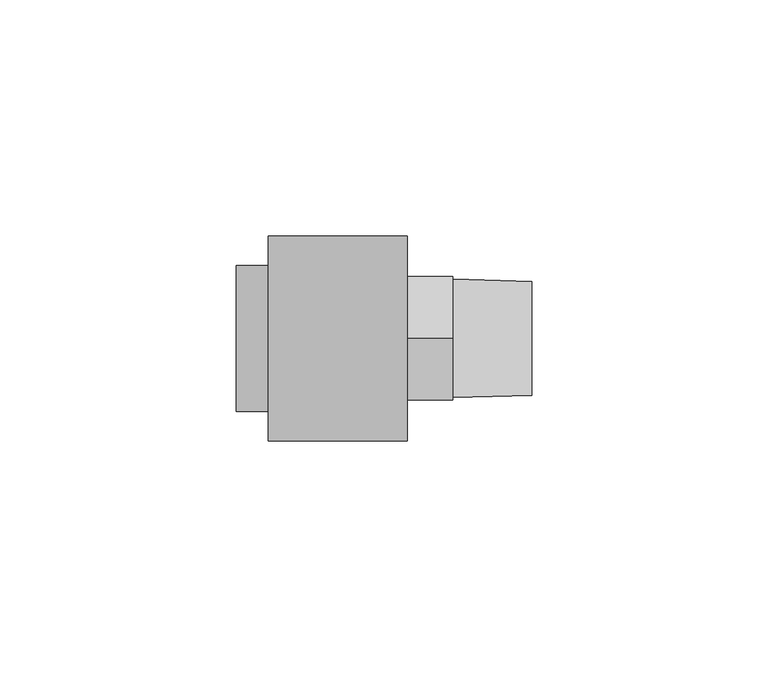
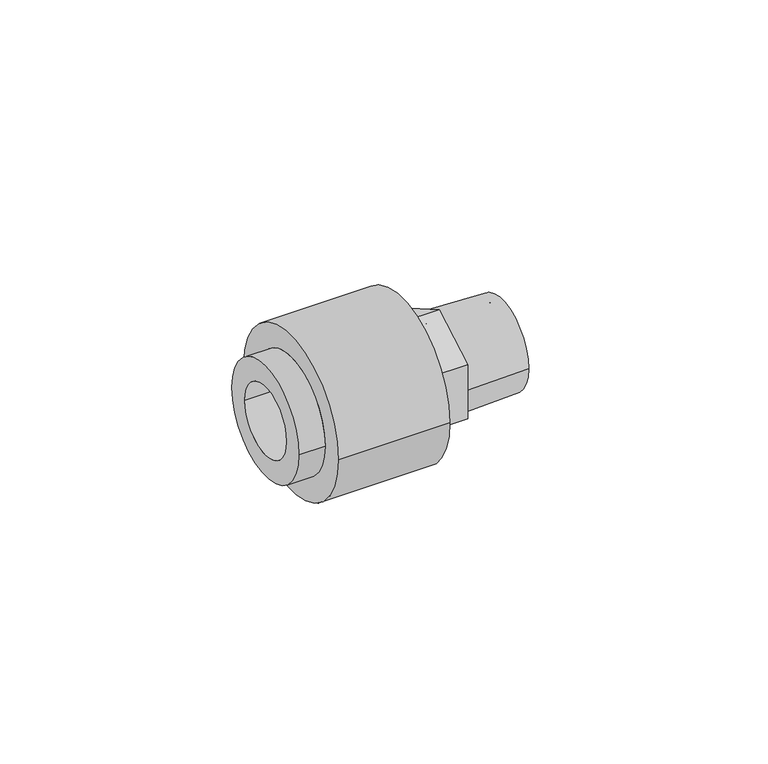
"""IFC4 building model written with IfcOpenShell, lengths in millimetres: pipe fitting geometry, Aquatherm - Fusion Outlet Transition Male : POTABLE BRASS - HEX."""

from ifc_helpers import new_model, si_unit, frame, origin, place, context, project, spatial, polyline, circle_curve, source, transform, mapped, element, save
from ifc_brep_helpers import plane_surface, cylinder_surface, revolved_surface, advanced_brep


def pipe_fitting_1c57c1a6(model_context):
    return source(origin(), model_context, "Body", "AdvancedBrep", [
        advanced_brep(
        [(9.1241563, 15.494, 0.0), (9.1241563, -15.494, 0.0), (9.1241563, 9.525, 0.0), (9.1241563, -9.525, 0.0), (29.4441563, 15.494, 0.0), (29.4441563, -15.494, 0.0), (29.4441563, 0.0, -15.1046377), (29.4441563, -13.081, -7.5523189), (29.4441563, -13.081, 7.5523189), (29.4441563, 0.0, 15.1046377), (29.4441563, 13.081, 7.5523189), (29.4441563, 13.081, -7.5523189), (29.4441563, 9.525, 0.0), (29.4441563, -9.525, 0.0), (39.0961563, 0.0, -15.1046377), (39.0961563, 13.081, -7.5523189), (39.0961563, 13.081, 7.5523189), (39.0961563, 0.0, 15.1046377), (39.0961563, -13.081, 7.5523189), (39.0961563, -13.081, -7.5523189), (39.0961563, 12.5560449, 0.0), (39.0961563, -12.5560449, 0.0), (39.0961563, 9.525, 0.0), (39.0961563, -9.525, 0.0), (55.8601563, -9.525, 0.0), (55.8601563, 9.525, 0.0), (55.8601563, -12.0502051, 0.0), (55.8601563, 12.0502051, 0.0)],
        [
            (0, 1, circle_curve(frame((9.1241563, 0.0, 0.0), z_axis=(-1.0, 0.0, 0.0), x_axis=(0.0, -1.0, 0.0)), 15.494)),
            (1, 0, circle_curve(frame((9.1241563, 0.0, 0.0), z_axis=(-1.0, 0.0, 0.0), x_axis=(0.0, -1.0, 0.0)), 15.494)),
            (2, 3, circle_curve(frame((9.1241563, 0.0, 0.0), z_axis=(1.0, 0.0, 0.0), x_axis=(0.0, -1.0, 0.0)), 9.525)),
            (3, 2, circle_curve(frame((9.1241563, 0.0, 0.0), z_axis=(1.0, 0.0, 0.0), x_axis=(0.0, -1.0, 0.0)), 9.525)),
            (4, 5, circle_curve(frame((29.4441563, 0.0, 0.0), z_axis=(1.0, 0.0, 0.0), x_axis=(0.0, -1.0, 0.0)), 15.494)),
            (5, 4, circle_curve(frame((29.4441563, 0.0, 0.0), z_axis=(1.0, 0.0, 0.0), x_axis=(0.0, -1.0, 0.0)), 15.494)),
            (6, 7),
            (7, 8),
            (8, 9),
            (9, 10),
            (10, 11),
            (11, 6),
            (0, 4),
            (5, 1),
            (2, 12),
            (12, 13, circle_curve(frame((29.4441563, 0.0, 0.0), z_axis=(1.0, 0.0, 0.0), x_axis=(0.0, -1.0, 0.0)), 9.525)),
            (13, 3),
            (13, 12, circle_curve(frame((29.4441563, 0.0, 0.0), z_axis=(1.0, 0.0, 0.0), x_axis=(0.0, -1.0, 0.0)), 9.525)),
            (14, 15),
            (15, 16),
            (16, 17),
            (17, 18),
            (18, 19),
            (19, 14),
            (20, 21, circle_curve(frame((39.0961563, 0.0, 0.0), z_axis=(-1.0, 0.0, 0.0), x_axis=(0.0, -1.0, 0.0)), 12.5560449)),
            (21, 20, circle_curve(frame((39.0961563, 0.0, 0.0), z_axis=(-1.0, 0.0, 0.0), x_axis=(0.0, -1.0, 0.0)), 12.5560449)),
            (19, 7),
            (6, 14),
            (18, 8),
            (17, 9),
            (16, 10),
            (15, 11),
            (12, 22),
            (22, 23, circle_curve(frame((39.0961563, 0.0, 0.0), z_axis=(1.0, 0.0, 0.0), x_axis=(0.0, -1.0, 0.0)), 9.525)),
            (23, 13),
            (23, 22, circle_curve(frame((39.0961563, 0.0, 0.0), z_axis=(1.0, 0.0, 0.0), x_axis=(0.0, -1.0, 0.0)), 9.525)),
            (23, 24),
            (24, 25, circle_curve(frame((55.8601563, 0.0, 0.0), z_axis=(1.0, 0.0, 0.0), x_axis=(0.0, -1.0, 0.0)), 9.525)),
            (25, 22),
            (25, 24, circle_curve(frame((55.8601563, 0.0, 0.0), z_axis=(1.0, 0.0, 0.0), x_axis=(0.0, -1.0, 0.0)), 9.525)),
            (24, 26),
            (26, 27, circle_curve(frame((55.8601563, 0.0, 0.0), z_axis=(1.0, 0.0, 0.0), x_axis=(0.0, -1.0, 0.0)), 12.0502051)),
            (27, 25),
            (27, 26, circle_curve(frame((55.8601563, 0.0, 0.0), z_axis=(1.0, 0.0, 0.0), x_axis=(0.0, -1.0, 0.0)), 12.0502051)),
            (26, 21),
            (20, 27),
        ],
        [
            plane_surface(frame((9.1241563, -15.494, 0.0), z_axis=(-1.0, 0.0, 0.0), x_axis=(0.0, 0.0, 1.0))),
            plane_surface(frame((29.4441563, -15.494, 0.0), z_axis=(1.0, 0.0, 0.0), x_axis=(0.0, 0.0, -1.0))),
            cylinder_surface(frame((29.4441563, 0.0, 0.0), z_axis=(-1.0, 0.0, 0.0), x_axis=(0.0, -1.0, 0.0)), 15.494),
            revolved_surface(polyline([(29.444156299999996, -9.525, 0.0), (9.1241563, -9.525, 0.0)]), (11.9969372, 0.0, 0.0), (1.0, 0.0, 0.0)),
            plane_surface(frame((39.0961563, 0.0, -15.1046377), z_axis=(1.0000000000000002, 0.0, 0.0), x_axis=(0.0, 0.8660254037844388, -0.49999999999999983))),
            plane_surface(frame((29.4441563, 0.0, -15.1046377), z_axis=(0.0, -0.49999999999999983, -0.8660254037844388), x_axis=(1.0, 0.0, 0.0))),
            plane_surface(frame((29.4441563, -13.081, -7.5523189), z_axis=(0.0, -1.0, 0.0), x_axis=(1.0, 0.0, 0.0))),
            plane_surface(frame((29.4441563, -13.081, 7.5523189), z_axis=(0.0, -0.4999999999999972, 0.8660254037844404), x_axis=(1.0, 0.0, 0.0))),
            plane_surface(frame((29.4441563, 0.0, 15.1046377), z_axis=(0.0, 0.500000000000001, 0.8660254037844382), x_axis=(1.0, 0.0, 0.0))),
            plane_surface(frame((29.4441563, 13.081, 7.5523189), z_axis=(0.0, 1.0, 0.0), x_axis=(1.0, 0.0, 0.0))),
            plane_surface(frame((29.4441563, 13.081, -7.5523189), z_axis=(0.0, 0.49999999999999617, -0.8660254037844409), x_axis=(1.0, 0.0, 0.0))),
            revolved_surface(polyline([(39.0961563, -9.525, 0.0), (29.4441563, -9.525, 0.0)]), (29.4441563, 0.0, 0.0), (1.0, 0.0, 0.0)),
            revolved_surface(polyline([(55.8601563, -9.525, 0.0), (39.0961563, -9.525, 0.0)]), (90.7332251, 0.0, 0.0), (1.0, 0.0, 0.0)),
            plane_surface(frame((55.8601563, 0.0, 0.0), z_axis=(1.0, 0.0, 0.0), x_axis=(0.0, -1.0, 0.0))),
            revolved_surface(polyline([(39.0961563, -12.5560449, 0.0), (55.8601563, -12.0502051, 0.0)]), (90.7332251, 0.0, 0.0), (1.0, 0.0, 0.0)),
        ],
        [
            (0, [[1, 2], [3, 4]]),
            (1, [[5, 6], [7, 8, 9, 10, 11, 12]]),
            (2, [[-1, 13, -6, 14]]),
            (2, [[-2, -14, -5, -13]]),
            (3, [[-3, 15, 16, 17]]),
            (3, [[-4, -17, 18, -15]]),
            (4, [[19, 20, 21, 22, 23, 24], [25, 26]]),
            (5, [[-24, 27, -7, 28]]),
            (6, [[-23, 29, -8, -27]]),
            (7, [[-22, 30, -9, -29]]),
            (8, [[-21, 31, -10, -30]]),
            (9, [[-20, 32, -11, -31]]),
            (10, [[-19, -28, -12, -32]]),
            (11, [[33, 34, 35, -16]]),
            (11, [[-33, -18, -35, 36]]),
            (12, [[37, 38, 39, -36]]),
            (12, [[-37, -34, -39, 40]]),
            (13, [[-38, 41, 42, 43]]),
            (13, [[-40, -43, 44, -41]]),
            (14, [[-42, 45, -25, 46]]),
            (14, [[-44, -46, -26, -45]]),
        ],
    ),
        advanced_brep(
        [(9.128125, 15.478125, 0.0), (9.128125, -15.478125, 0.0), (9.128125, 9.525, 0.0), (9.128125, -9.525, 0.0), (-6.7962162, -9.525, 0.0), (-6.7962162, 9.525, 0.0), (-6.7962162, -15.478125, 0.0), (-6.7962162, 15.478125, 0.0), (0.0, 15.478125, 0.0), (0.0, -15.478125, 0.0), (29.4441562, 21.7289063, 0.0), (29.4441562, -21.7289063, 0.0), (29.4441562, 15.478125, 0.0), (29.4441562, -15.478125, 0.0), (0.0, -21.7289063, 0.0), (0.0, 21.7289063, 0.0)],
        [
            (0, 1, circle_curve(frame((9.128125, 0.0, 0.0), z_axis=(1.0, 0.0, 0.0), x_axis=(0.0, -1.0, 0.0)), 15.478125)),
            (1, 0, circle_curve(frame((9.128125, 0.0, 0.0), z_axis=(1.0, 0.0, 0.0), x_axis=(0.0, -1.0, 0.0)), 15.478125)),
            (2, 3, circle_curve(frame((9.128125, 0.0, 0.0), z_axis=(-1.0, 0.0, 0.0), x_axis=(0.0, -1.0, 0.0)), 9.525)),
            (3, 2, circle_curve(frame((9.128125, 0.0, 0.0), z_axis=(-1.0, 0.0, 0.0), x_axis=(0.0, -1.0, 0.0)), 9.525)),
            (4, 5, circle_curve(frame((-6.7962162, 0.0, 0.0), z_axis=(-1.0, 0.0, 0.0), x_axis=(0.0, -1.0, 0.0)), 9.525)),
            (5, 2),
            (3, 4),
            (5, 4, circle_curve(frame((-6.7962162, 0.0, 0.0), z_axis=(-1.0, 0.0, 0.0), x_axis=(0.0, -1.0, 0.0)), 9.525)),
            (6, 7, circle_curve(frame((-6.7962162, 0.0, 0.0), z_axis=(1.0, 0.0, 0.0), x_axis=(0.0, -1.0, 0.0)), 15.478125)),
            (7, 8),
            (8, 9, circle_curve(frame((0.0, 0.0, 0.0), z_axis=(-1.0, 0.0, 0.0), x_axis=(0.0, -1.0, 0.0)), 15.478125)),
            (9, 6),
            (7, 6, circle_curve(frame((-6.7962162, 0.0, 0.0), z_axis=(1.0, 0.0, 0.0), x_axis=(0.0, -1.0, 0.0)), 15.478125)),
            (9, 8, circle_curve(frame((0.0, 0.0, 0.0), z_axis=(-1.0, 0.0, 0.0), x_axis=(0.0, -1.0, 0.0)), 15.478125)),
            (10, 11, circle_curve(frame((29.4441562, 0.0, 0.0), z_axis=(1.0, 0.0, 0.0), x_axis=(0.0, -1.0, 0.0)), 21.7289063)),
            (11, 10, circle_curve(frame((29.4441562, 0.0, 0.0), z_axis=(1.0, 0.0, 0.0), x_axis=(0.0, -1.0, 0.0)), 21.7289063)),
            (12, 13, circle_curve(frame((29.4441562, 0.0, 0.0), z_axis=(-1.0, 0.0, 0.0), x_axis=(0.0, -1.0, 0.0)), 15.478125)),
            (13, 12, circle_curve(frame((29.4441562, 0.0, 0.0), z_axis=(-1.0, 0.0, 0.0), x_axis=(0.0, -1.0, 0.0)), 15.478125)),
            (13, 1),
            (0, 12),
            (11, 14),
            (14, 15, circle_curve(frame((0.0, 0.0, 0.0), z_axis=(1.0, 0.0, 0.0), x_axis=(0.0, -1.0, 0.0)), 21.7289063)),
            (15, 10),
            (15, 14, circle_curve(frame((0.0, 0.0, 0.0), z_axis=(1.0, 0.0, 0.0), x_axis=(0.0, -1.0, 0.0)), 21.7289063)),
        ],
        [
            plane_surface(frame((9.128125, -9.525, 0.0), z_axis=(1.0, 0.0, 0.0), x_axis=(0.0, 0.0, 1.0))),
            revolved_surface(polyline([(9.128125, -9.525, 0.0), (-6.7962162, -9.525, 0.0)]), (9.128125, 0.0, 0.0), (1.0, 0.0, 0.0)),
            cylinder_surface(frame((0.0, 0.0, 0.0), z_axis=(-1.0, 0.0, 0.0), x_axis=(0.0, -1.0, 0.0)), 15.478125),
            plane_surface(frame((29.4441562, -15.478125, 0.0), z_axis=(1.0, 0.0, 0.0), x_axis=(0.0, 0.0, 1.0))),
            revolved_surface(polyline([(29.4441562, -15.478125, 0.0), (9.128125, -15.478125, 0.0)]), (29.4441562, 0.0, 0.0), (1.0, 0.0, 0.0)),
            cylinder_surface(frame((0.0, 0.0, 0.0), z_axis=(-1.0, 0.0, 0.0), x_axis=(0.0, -1.0, 0.0)), 21.7289063),
            plane_surface(frame((-6.7962162, -9.525, 0.0), z_axis=(-1.0, 0.0, 0.0), x_axis=(0.0, 0.0, -1.0))),
            plane_surface(frame((0.0, -15.478125, 0.0), z_axis=(-1.0, 0.0, 0.0), x_axis=(0.0, 0.0, -1.0))),
        ],
        [
            (0, [[1, 2], [3, 4]]),
            (1, [[5, 6, -4, 7]]),
            (1, [[8, -7, -3, -6]]),
            (2, [[9, 10, 11, 12]]),
            (2, [[13, -12, 14, -10]]),
            (3, [[15, 16], [17, 18]]),
            (4, [[-18, 19, -1, 20]]),
            (4, [[-17, -20, -2, -19]]),
            (5, [[-16, 21, 22, 23]]),
            (5, [[-15, -23, 24, -21]]),
            (6, [[-9, -13], [-5, -8]]),
            (7, [[-22, -24], [-11, -14]]),
        ],
    ),
    ])


if __name__ == "__main__":
    model = new_model("IFC4")
    model_context = context("Model", 3, world=origin())
    ifc_project = project(units=[si_unit("LENGTHUNIT", "METRE", prefix="MILLI")], contexts=[model_context])
    site = spatial("IfcSite", under=ifc_project)
    building = spatial("IfcBuilding", under=site)
    placement = place(None, origin())
    pipe_fitting_shape = pipe_fitting_1c57c1a6(model_context)
    element("IfcPipeFitting", 1, ObjectType="Aquatherm - Fusion Outlet Transition Male : POTABLE BRASS - HEX", at=placement, inside=building, context=model_context, shape_type="MappedRepresentation", body=[
        mapped(pipe_fitting_shape, transform((0.0, 0.0, 0.0), x_axis=(1.0, 0.0, 0.0), y_axis=(0.0, 1.0, 0.0), z_axis=(0.0, 0.0, 1.0))),
    ])
    save(model, "model.ifc")
